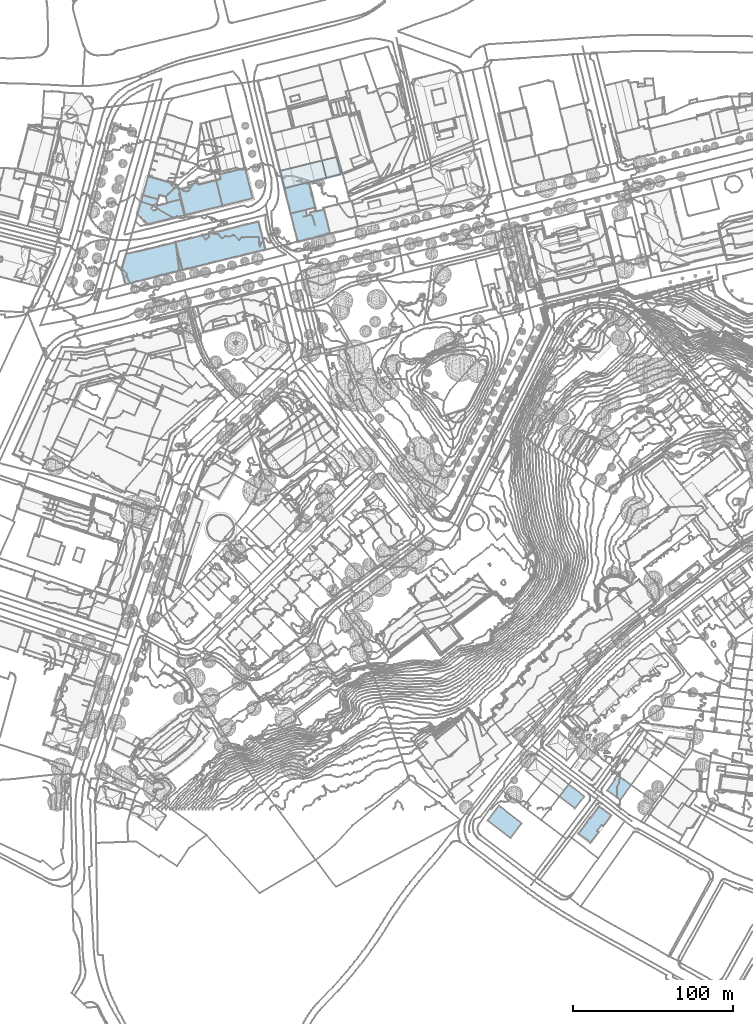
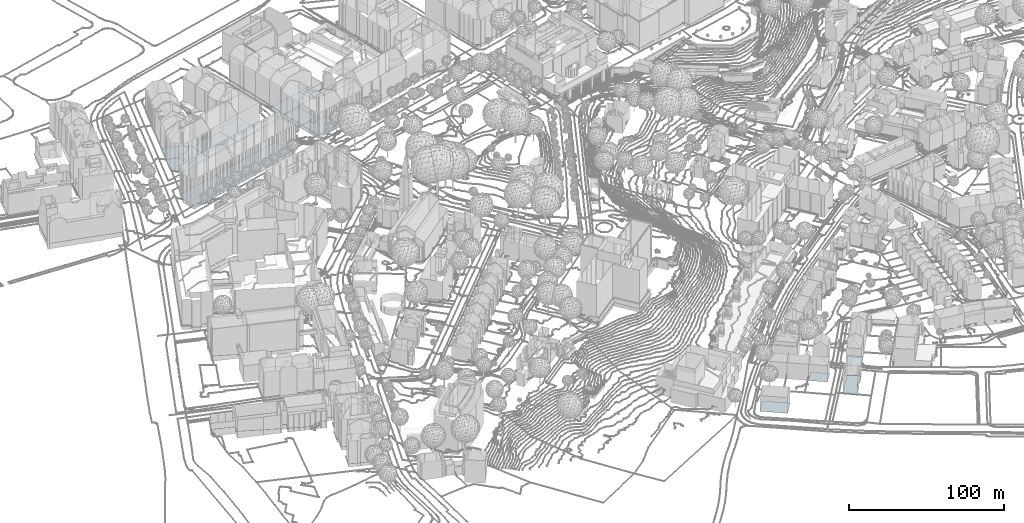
# Not in any storey, part 5 of 494: 13 footings.
"""IFC2X3 model written with IfcOpenShell, lengths in metres."""

from ifc_helpers import new_model, si_unit, frame, origin_with_axes, place, context, subcontext, project, faceted_brep, element, save


model = new_model("IFC2X3")

# Units and contexts
model_context = context("Model", 3, precision=1e-05, world=origin_with_axes())
body_context = subcontext(model_context, "Body", "Model", "MODEL_VIEW")
ifc_project = project(units=[si_unit("AREAUNIT", "SQUARE_METRE"), si_unit("LENGTHUNIT", "METRE")], contexts=[model_context])

# Footings
footing_1_placement = place(None, frame((351.9437320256, 10.5164160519, 499.6315), z_axis=(0.0, 0.0, 1.0), x_axis=(1.0, 0.0, 0.0)))
element("IfcFooting", 1, at=footing_1_placement, Name="Floor 0", PredefinedType="STRIP_FOOTING", context=body_context, shape_type="Brep", body=[
    faceted_brep([(6.9640000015, 9.188500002, 0.0), (10.7760000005, 6.4600000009, 0.0), (5.0899999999, 7.0692999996, 0.0), (4.9010000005, 7.5439999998, 0.0), (6.3780000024, 9.6064999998, 0.0), (6.444000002, 9.5606000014, 0.0), (14.9299999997, 3.4853999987, 0.0), (8.1790000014, -5.8896000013, 0.0), (0.0, 0.0, 0.0), (4.7410000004, 7.3213, 0.0)], [[[0, 1, 2]], [[3, 4, 5]], [[3, 5, 0]], [[6, 7, 1]], [[8, 2, 7]], [[2, 9, 3]], [[3, 0, 2]], [[2, 1, 7]]]),
])
footing_2_placement = place(None, frame((277.0167320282, -8.246283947, 501.3544), z_axis=(0.0, 0.0, 1.0), x_axis=(1.0, 0.0, 0.0)))
element("IfcFooting", 2, at=footing_2_placement, Name="Floor 0", PredefinedType="STRIP_FOOTING", context=body_context, shape_type="Brep", body=[
    faceted_brep([(7.1789999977, 9.2978999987, 0.0), (21.432, -1.7080000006, 0.0), (0.0, 0.0, 0.0), (14.3549999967, -11.0839999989, 0.0)], [[[0, 1, 2]], [[3, 2, 1]]]),
])
footing_3_placement = place(None, frame((334.0767320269, -16.4571839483, 500.2114), z_axis=(0.0, 0.0, 1.0), x_axis=(1.0, 0.0, 0.0)))
element("IfcFooting", 3, at=footing_3_placement, Name="Floor 0", PredefinedType="STRIP_FOOTING", context=body_context, shape_type="Brep", body=[
    faceted_brep([(12.4439999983, 1.0428999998, 0.0), (7.3869999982, -5.6142999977, 0.0), (0.0, 0.0, 0.0), (11.4890000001, 1.7675999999, 0.0), (5.4149999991, 7.1259000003, 0.0), (14.2479999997, 5.3993999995, 0.0), (7.4239999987, 9.7705000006, 0.0), (5.175999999, 7.307599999, 0.0), (15.2030000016, 4.6728000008, 0.0), (12.7949999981, 16.8388000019, 0.0), (20.2369999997, 11.2978000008, 0.0), (12.8440000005, 16.9043000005, 0.0), (7.1849999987, 9.9530999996, 0.0)], [[[0, 1, 2]], [[3, 4, 5]], [[0, 2, 3]], [[4, 6, 5]], [[4, 3, 2]], [[4, 7, 6]], [[8, 9, 10]], [[5, 9, 8]], [[5, 6, 9]], [[11, 10, 9]], [[7, 12, 6]]]),
])
footing_4_placement = place(None, frame((322.0067320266, 6.8035160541, 500.5714), z_axis=(0.0, 0.0, 1.0), x_axis=(1.0, 0.0, 0.0)))
element("IfcFooting", 4, at=footing_4_placement, Name="Floor 0", PredefinedType="STRIP_FOOTING", context=body_context, shape_type="Brep", body=[
    faceted_brep([(9.7160000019, -7.5137000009, 0.0), (2.9200000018, 3.811499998, 0.0), (15.6110000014, 0.1103999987, 0.0), (5.8610000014, 7.6503999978, 0.0), (0.0, 0.0, 0.0)], [[[0, 1, 2]], [[3, 2, 1]], [[1, 0, 4]]]),
])
footing_5_placement = place(None, frame((81.7547320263, 354.0350160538, 535.8227), z_axis=(0.0, 0.0, 1.0), x_axis=(1.0, 0.0, 0.0)))
element("IfcFooting", 5, at=footing_5_placement, Name="Floor 0", PredefinedType="STRIP_FOOTING", context=body_context, shape_type="Brep", body=[
    faceted_brep([(4.2390000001, -17.6513999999, 0.0), (3.9180000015, -17.7314999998, 0.0), (3.8969999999, -17.6446000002, 0.0), (4.4299999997, -17.6045000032, 0.0), (3.4160000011, -17.7237000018, 0.0), (5.2609999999, -17.3057000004, 0.0), (5.2769999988, -17.3946000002, 0.0), (1.4919999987, -11.2305000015, 0.0), (7.2520000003, -16.8125, 0.0), (3.4310000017, -17.7675999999, 0.0), (7.2829999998, -16.8965000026, 0.0), (8.2120000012, -16.6661000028, 0.0), (8.3420000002, -16.5411000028, 0.0), (8.3630000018, -16.6289000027, 0.0), (8.7919999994, -16.4307000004, 0.0), (10.3099999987, -16.0567000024, 0.0), (11.4090000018, -15.7901000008, 0.0), (11.4270000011, -15.8692000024, 0.0), (16.5639999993, -14.5245000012, 0.0), (14.5729999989, -15.0157000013, 0.0), (10.3359999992, -16.1407000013, 0.0), (14.5879999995, -15.0860000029, 0.0), (13.561999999, -15.2696000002, 0.0), (17.6959999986, -14.3155000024, 0.0), (16.5800000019, -14.5918000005, 0.0), (17.6810000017, -14.2383000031, 0.0), (13.5789999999, -15.3360000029, 0.0), (19.6710000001, -13.7471000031, 0.0), (21.0590000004, -13.4825000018, 0.0), (19.6909999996, -13.8213, 0.0), (21.5130000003, -13.2530000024, 0.0), (21.0470000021, -13.4239000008, 0.0), (21.5269999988, -13.3057000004, 0.0), (23.5159999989, -12.7637000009, 0.0), (24.6559999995, -12.4785000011, 0.0), (24.6680000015, -12.5263999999, 0.0), (23.5280000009, -12.8057000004, 0.0), (31.2730000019, -10.9502000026, 0.0), (26.694000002, -12.0840000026, 0.0), (26.6669999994, -11.9932000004, 0.0), (31.2470000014, -10.8467000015, 0.0), (1.4459999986, -10.8868000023, 0.0), (33.2459999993, -10.3409000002, 0.0), (34.4510000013, -10.0811000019, 0.0), (33.2580000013, -10.3731000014, 0.0), (34.4450000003, -10.0459000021, 0.0), (36.3969999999, -9.567400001, 0.0), (36.8330000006, -9.5020000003, 0.0), (36.4070000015, -9.6084000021, 0.0), (38.3379999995, -9.327200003, 0.0), (38.3610000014, -9.4200000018, 0.0), (36.9050000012, -9.7803000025, 0.0), (40.3770000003, -8.8203999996, 0.0), (42.1449999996, -8.2802000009, 0.0), (41.8090000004, -8.563500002, 0.0), (40.4010000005, -8.9151000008, 0.0), (41.7730000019, -8.4131000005, 0.0), (42.1550000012, -8.3194000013, 0.0), (44.1610000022, -7.8145000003, 0.0), (44.1460000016, -7.7832000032, 0.0), (45.6469999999, -7.4502000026, 0.0), (55.3029999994, -0.6494000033, 0.0), (45.6330000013, -7.4034000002, 0.0), (47.5450000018, -6.9805000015, 0.0), (47.5320000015, -6.942400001, 0.0), (49.0370000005, -6.6152999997, 0.0), (49.0250000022, -6.5703000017, 0.0), (51.0709999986, -6.1055000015, 0.0), (51.0549999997, -6.0576000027, 0.0), (51.4629999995, -6.004900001, 0.0), (52.9180000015, -5.8379000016, 0.0), (51.5159999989, -6.1748000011, 0.0), (52.8949999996, -5.7276000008, 0.0), (55.8110000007, -2.7168000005, 0.0), (2.3880000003, -17.9776000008, 0.0), (0.9459999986, -7.1202000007, 0.0), (0.0, 0.0, 0.0), (0.5269999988, 0.047799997, 0.0), (4.1270000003, 0.9266999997, 0.0), (0.5080000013, 0.1268999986, 0.0), (0.0329999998, 0.0088, 0.0), (6.0910000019, 1.4051999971, 0.0), (7.512000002, 1.7469999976, 0.0), (6.0549999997, 1.5516999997, 0.0), (7.4790000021, 1.9012999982, 0.0), (8.8509999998, 2.0829999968, 0.0), (10.2300000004, 2.422799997, 0.0), (10.194000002, 2.5682999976, 0.0), (8.8249999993, 2.2313999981, 0.0), (16.7820000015, 3.8944999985, 0.0), (15.7829999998, 3.8173999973, 0.0), (54.5969999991, 2.4491999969, 0.0), (16.7259999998, 4.1278999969, 0.0), (15.7639999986, 3.8954999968, 0.0), (22.6209999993, 5.4979999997, 0.0), (24.0720000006, 5.7088999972, 0.0), (22.6570000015, 5.3514999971, 0.0), (24.0399999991, 5.8486000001, 0.0), (53.8220000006, 5.5625, 0.0), (26.7860000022, 6.3729999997, 0.0), (25.4079999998, 6.0341999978, 0.0), (25.379999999, 6.1805999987, 0.0), (26.75, 6.5185000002, 0.0), (53.4220000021, 6.5898000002, 0.0), (32.5980000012, 8.066399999, 0.0), (33.5780000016, 8.2137999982, 0.0), (32.6550000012, 7.8339999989, 0.0), (33.557, 8.3006999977, 0.0), (39.8090000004, 9.748999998, 0.0), (52.8770000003, 8.4842999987, 0.0), (56.2300000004, -4.2334000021, 0.0), (54.9420000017, -5.2276000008, 0.0), (54.9670000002, -5.327200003, 0.0), (56.4129999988, -4.9825000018, 0.0), (53.9100000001, 5.5887999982, 0.0), (54.8599999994, 1.369099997, 0.0), (53.6570000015, 6.6454999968, 0.0), (54.949000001, 1.3905999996, 0.0), (54.6849999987, 2.4755999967, 0.0), (55.8570000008, -2.7090000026, 0.0), (56.307, -4.5469000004, 0.0), (55.3489999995, -0.6338, 0.0), (39.7730000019, 9.8944999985, 0.0), (41.6110000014, 10.177699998, 0.0), (41.5729999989, 10.3398000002, 0.0), (52.3440000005, 10.6747999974, 0.0), (42.9160000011, 10.672799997, 0.0), (44.7300000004, 10.9667999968, 0.0), (42.9459999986, 10.5292999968, 0.0), (44.694000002, 11.1122999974, 0.0), (52.9479999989, 8.5067999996, 0.0), (50.9210000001, 12.5975999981, 0.0), (51.8770000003, 12.8299999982, 0.0), (50.9420000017, 12.5097000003, 0.0), (52.4050000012, 10.6991999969, 0.0)], [[[0, 1, 2]], [[3, 0, 2]], [[4, 5, 2]], [[5, 6, 3]], [[3, 2, 5]], [[7, 8, 5]], [[9, 4, 2]], [[7, 5, 4]], [[10, 8, 11]], [[12, 11, 8]], [[13, 11, 12]], [[12, 7, 14]], [[8, 7, 12]], [[7, 15, 14]], [[16, 17, 15]], [[7, 18, 19]], [[17, 20, 15]], [[19, 21, 22]], [[19, 22, 7]], [[18, 23, 24]], [[18, 7, 25]], [[21, 26, 22]], [[16, 7, 22]], [[23, 18, 25]], [[27, 28, 29]], [[7, 30, 27]], [[28, 27, 31]], [[32, 31, 30]], [[33, 7, 34]], [[27, 30, 31]], [[27, 25, 7]], [[16, 15, 7]], [[33, 30, 7]], [[35, 36, 33]], [[33, 34, 35]], [[37, 38, 39]], [[39, 40, 37]], [[40, 39, 7]], [[41, 42, 40]], [[7, 39, 34]], [[43, 44, 42]], [[42, 45, 43]], [[46, 47, 48]], [[47, 49, 50]], [[51, 47, 50]], [[47, 52, 49]], [[53, 47, 46]], [[41, 46, 45]], [[41, 45, 42]], [[52, 54, 55]], [[54, 52, 56]], [[53, 56, 52]], [[57, 56, 53]], [[58, 59, 60]], [[59, 53, 61]], [[61, 62, 59]], [[47, 53, 52]], [[60, 59, 62]], [[63, 64, 65]], [[66, 65, 64]], [[67, 68, 69]], [[69, 70, 71]], [[69, 72, 70]], [[64, 73, 66]], [[64, 62, 73]], [[61, 53, 46]], [[74, 7, 4]], [[46, 41, 75]], [[61, 46, 75]], [[75, 76, 77]], [[78, 75, 77]], [[79, 77, 80]], [[78, 81, 75]], [[76, 80, 77]], [[82, 81, 83]], [[83, 84, 82]], [[75, 85, 86]], [[75, 82, 85]], [[87, 86, 88]], [[89, 86, 90]], [[75, 86, 89]], [[86, 85, 88]], [[75, 81, 82]], [[89, 91, 75]], [[92, 89, 93]], [[90, 93, 89]], [[94, 95, 96]], [[95, 94, 97]], [[96, 95, 98]], [[98, 89, 96]], [[99, 100, 101]], [[101, 102, 99]], [[100, 99, 103]], [[100, 98, 95]], [[104, 105, 106]], [[105, 104, 107]], [[108, 106, 105]], [[103, 99, 106]], [[109, 106, 108]], [[72, 69, 68]], [[72, 110, 111]], [[112, 111, 113]], [[72, 68, 110]], [[103, 114, 98]], [[91, 89, 98]], [[75, 91, 115]], [[116, 114, 103]], [[100, 103, 98]], [[61, 75, 115]], [[117, 91, 118]], [[73, 119, 110]], [[120, 111, 110]], [[111, 120, 113]], [[73, 110, 68]], [[115, 91, 117]], [[61, 115, 121]], [[61, 73, 62]], [[66, 73, 68]], [[122, 123, 108]], [[123, 122, 124]], [[123, 125, 108]], [[126, 127, 128]], [[127, 126, 129]], [[128, 127, 125]], [[128, 125, 123]], [[108, 125, 109]], [[130, 103, 109]], [[131, 132, 133]], [[132, 134, 133]], [[125, 127, 134]], [[127, 133, 134]], [[106, 109, 103]], [[40, 7, 41]]]),
])
footing_6_placement = place(None, frame((48.0647320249, 337.0857160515, 535.8227), z_axis=(0.0, 0.0, 1.0), x_axis=(1.0, 0.0, 0.0)))
element("IfcFooting", 6, at=footing_6_placement, Name="Floor 0", PredefinedType="STRIP_FOOTING", context=body_context, shape_type="Brep", body=[
    faceted_brep([(33.6900000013, 16.9493000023, 0.0), (33.3000000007, 16.5947999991, 0.0), (33.5500000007, 16.9141000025, 0.0), (33.2390000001, 16.8379000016, 0.0), (27.4270000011, 15.1280000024, 0.0), (30.2790000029, 15.8399000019, 0.0), (34.6359999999, 9.8291000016, 0.0), (26.8230000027, 15.1308999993, 0.0), (27.3900000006, 15.2734999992, 0.0), (26.8520000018, 14.9678000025, 0.0), (23.2900000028, 14.0888999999, 0.0), (23.2530000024, 14.2344000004, 0.0), (25.6000000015, 14.6534000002, 0.0), (25.5670000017, 14.8164000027, 0.0), (17.4160000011, 12.6220999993, 0.0), (35.1359999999, 6.0625, 0.0), (24.2039999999, -3.9422999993, 0.0), (35.2910000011, -1.2215999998, 0.0), (35.182, 5.7188000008, 0.0), (36.0780000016, -1.0282999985, 0.0), (25.3740000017, -3.6669999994, 0.0), (35.1000000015, -1.2685000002, 0.0), (14.1790000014, 11.9043000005, 0.0), (22.2210000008, -4.4442999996, 0.0), (12.4210000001, 11.4620000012, 0.0), (16.3880000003, 12.6182000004, 0.0), (17.3590000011, 12.8544999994, 0.0), (16.4060000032, 12.4776000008, 0.0), (15.6550000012, 12.2657000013, 0.0), (15.6510000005, 12.2969000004, 0.0), (33.9360000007, -1.5487999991, 0.0), (12.4170000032, 11.5, 0.0), (14.1730000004, 11.947300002, 0.0), (10.9700000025, 11.0918000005, 0.0), (10.2130000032, 10.9600000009, 0.0), (10.9600000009, 11.1495000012, 0.0), (10.1610000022, 11.1601999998, 0.0), (1.5920000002, 5.3194000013, 0.0), (5.2630000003, 9.8594000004, 0.0), (5.2420000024, 9.9629000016, 0.0), (2.1770000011, 7.3858000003, 0.0), (3.7320000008, 9.4922000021, 0.0), (2.6090000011, 9.3243000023, 0.0), (3.7140000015, 9.5909000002, 0.0), (2.4520000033, 8.7618000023, 0.0), (1.194000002, 3.9180000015, 0.0), (18.3900000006, -5.6268999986, 0.0), (2.0800000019, 7.4229000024, 0.0), (1.1180000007, 3.9453999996, 0.0), (16.5530000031, -6.0126999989, 0.0), (0.6160000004, 1.8780000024, 0.0), (1.5150000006, 5.3438000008, 0.0), (0.1660000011, 0.5733000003, 0.0), (0.5470000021, 1.8965000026, 0.0), (0.7039999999, -2.807599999, 0.0), (0.0, 0.0, 0.0), (0.8590000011, -3.4648000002, 0.0), (0.5670000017, -2.8436999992, 0.0), (14.5450000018, -6.5126999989, 0.0), (0.7400000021, -3.4881999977, 0.0), (35.1140000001, -1.3348999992, 0.0), (33.950000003, -1.6162, 0.0), (31.9580000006, -2.0321999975, 0.0), (30.8550000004, -2.3662, 0.0), (31.5450000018, -2.3691000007, 0.0), (30.8890000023, -2.5340999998, 0.0), (31.5140000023, -2.2284999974, 0.0), (31.9720000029, -2.1092999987, 0.0), (27.3430000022, -3.1717999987, 0.0), (28.4470000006, -2.9608999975, 0.0), (27.8330000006, -3.1180999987, 0.0), (27.8660000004, -3.2752999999, 0.0), (28.4820000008, -3.1209999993, 0.0), (27.3560000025, -3.2284999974, 0.0), (25.3859999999, -3.7362999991, 0.0), (24.2240000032, -4.0262999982, 0.0), (21.8280000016, -4.6004999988, 0.0), (22.2300000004, -4.4941000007, 0.0), (20.4300000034, -5.1259000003, 0.0), (21.9140000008, -4.9384000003, 0.0), (20.4680000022, -5.2899999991, 0.0), (18.4250000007, -5.7861000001, 0.0), (16.9790000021, -5.9715999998, 0.0), (17.018000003, -6.1464000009, 0.0), (16.5670000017, -6.0839000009, 0.0), (13.9790000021, -6.7333999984, 0.0), (14.0080000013, -6.8768999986, 0.0), (13.4180000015, -7.0262999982, 0.0), (13.4020000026, -6.9549999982, 0.0), (14.5620000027, -6.5918000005, 0.0), (10.3260000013, -7.6307999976, 0.0), (1.7150000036, -6.8983999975, 0.0), (1.4330000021, -6.2909999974, 0.0), (1.5610000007, -6.2547999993, 0.0), (7.6620000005, -8.2324000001, 0.0), (1.5920000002, -6.9247999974, 0.0), (10.9650000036, -7.566399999, 0.0), (9.7030000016, -7.7342999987, 0.0), (10.9740000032, -7.6483999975, 0.0), (9.7170000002, -7.7949000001, 0.0), (10.3650000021, -7.807599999, 0.0), (7.2960000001, -8.3856999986, 0.0), (7.6760000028, -8.2928999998, 0.0), (5.8650000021, -8.7577999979, 0.0), (3.8480000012, -9.2597000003, 0.0), (7.3340000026, -8.5506999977, 0.0), (2.4410000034, -9.753899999, 0.0), (3.876000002, -9.3964000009, 0.0), (5.8980000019, -8.9081999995, 0.0)], [[[0, 1, 2]], [[2, 1, 3]], [[4, 5, 6]], [[4, 7, 8]], [[6, 9, 4]], [[6, 1, 0]], [[7, 4, 9]], [[10, 11, 12]], [[12, 6, 10]], [[11, 13, 12]], [[6, 12, 9]], [[1, 6, 5]], [[14, 15, 16]], [[15, 14, 10]], [[17, 18, 19]], [[18, 20, 15]], [[21, 18, 17]], [[22, 23, 24]], [[14, 25, 26]], [[14, 27, 25]], [[27, 28, 29]], [[28, 14, 23]], [[14, 28, 27]], [[23, 22, 28]], [[30, 18, 21]], [[6, 15, 10]], [[31, 32, 22]], [[24, 31, 22]], [[33, 34, 35]], [[36, 34, 37]], [[33, 37, 34]], [[38, 39, 36]], [[36, 40, 38]], [[41, 42, 43]], [[42, 41, 44]], [[41, 40, 44]], [[38, 40, 41]], [[45, 33, 46]], [[47, 44, 40]], [[45, 48, 37]], [[45, 49, 50]], [[33, 45, 37]], [[48, 51, 37]], [[37, 40, 36]], [[50, 52, 53]], [[52, 54, 55]], [[56, 57, 54]], [[52, 58, 54]], [[57, 56, 59]], [[46, 33, 24]], [[58, 52, 50]], [[58, 56, 54]], [[21, 60, 30]], [[30, 60, 61]], [[62, 63, 18]], [[64, 65, 63]], [[63, 66, 64]], [[66, 62, 67]], [[66, 63, 62]], [[68, 18, 69]], [[69, 70, 68]], [[63, 69, 18]], [[71, 70, 72]], [[73, 68, 70]], [[70, 69, 72]], [[20, 18, 68]], [[74, 16, 20]], [[74, 75, 16]], [[15, 20, 16]], [[76, 23, 77]], [[76, 24, 23]], [[78, 76, 79]], [[79, 80, 78]], [[78, 46, 76]], [[81, 82, 46]], [[82, 81, 83]], [[45, 46, 49]], [[76, 46, 24]], [[46, 82, 49]], [[16, 23, 14]], [[49, 82, 84]], [[56, 58, 85]], [[86, 87, 88]], [[88, 85, 86]], [[85, 58, 89]], [[56, 85, 90]], [[91, 92, 93]], [[91, 93, 94]], [[91, 95, 92]], [[96, 90, 88]], [[93, 56, 97]], [[98, 90, 96]], [[97, 56, 90]], [[88, 90, 85]], [[49, 58, 50]], [[90, 99, 97]], [[90, 98, 100]], [[101, 94, 102]], [[94, 101, 91]], [[103, 104, 91]], [[105, 103, 101]], [[104, 106, 91]], [[101, 103, 91]], [[104, 107, 106]], [[108, 103, 105]], [[93, 97, 94]], [[18, 30, 62]]]),
])
footing_7_placement = place(None, frame((153.8417320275, 371.7576160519, 556.9797), z_axis=(0.0, 0.0, 1.0), x_axis=(1.0, 0.0, 0.0)))
element("IfcFooting", 7, at=footing_7_placement, Name="Floor 0", PredefinedType="STRIP_FOOTING", context=body_context, shape_type="Brep", body=[
    faceted_brep([(12.1769999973, 0.7177999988, -19.1582), (9.4499999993, 2.3037, -19.1582), (15.2799999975, 2.753899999, -19.1582), (9.4459999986, 2.3213, -19.1582), (15.4069999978, 3.8672000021, -19.1582), (15.5659999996, 1.6026000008, -19.1582), (12.5519999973, -0.7265000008, -19.1582), (10.3819999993, -1.2910000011, -19.1582), (15.5419999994, 3.3594000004, -19.1582), (15.5040000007, 3.3447000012, -19.1582), (15.4349999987, 3.7608000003, -19.1582), (15.6259999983, 2.8643000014, -19.1582), (5.2039999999, -17.3515000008, -19.7052), (4.6579999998, -17.5390000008, -19.7052), (4.186999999, -16.7285000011, -19.7052), (5.2159999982, -17.4013999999, -19.7052), (12.430999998, -15.7313999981, -19.7052), (11.6699999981, -15.9179999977, -19.7052), (11.629999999, -15.7588, -19.7052), (13.4289999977, -15.4891999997, -19.7052), (13.9019999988, -15.3125, -19.7052), (13.8819999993, -15.3779000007, -19.7052), (9.3399999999, -16.2617000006, -19.7052), (9.3559999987, -16.3222000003, -19.7052), (3.4010000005, -13.1611000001, -19.7052), (10.693, -15.9287, -19.7052), (3.7430000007, -14.5077999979, -19.7052), (10.7119999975, -15.9862999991, -19.7052), (10.9639999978, -15.9237999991, -19.7052), (10.381000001, -1.2910000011, -19.7052), (2.7879999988, -11.0282999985, -19.7052), (15.6919999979, -14.8691000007, -19.7052), (12.5519999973, -0.7265000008, -19.7052), (17.9230000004, -14.2128999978, -19.7052), (14.9120000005, -15.061499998, -19.7052), (16.873999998, -14.6356999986, -19.7052), (15.743999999, -14.9169999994, -19.7052), (17.9609999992, -14.3662, -19.7052), (17.7139999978, -14.4266999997, -19.7052), (18.9069999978, -13.9686999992, -19.7052), (18.8829999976, -13.8847000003, -19.7052), (20.1400000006, -13.5771000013, -19.7052), (22.0779999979, -13.1024999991, -19.7052), (20.1659999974, -13.6572000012, -19.7052), (22.0969999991, -13.1766999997, -19.7052), (23.436999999, -12.7606999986, -19.7052), (24.1449999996, -12.6699000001, -19.7052), (23.4609999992, -12.8387999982, -19.7052), (24.3330000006, -12.6229999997, -19.7052), (24.7939999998, -12.6220999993, -19.7052), (24.3640000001, -12.7333999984, -19.7052), (23.1359999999, -6.0790999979, -19.7052), (4.3519999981, -17.615199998, -19.7052), (2.5119999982, -10.1688999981, -19.7052), (2.574000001, -10.1543000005, -19.7052), (3.318, -13.1854999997, -19.7052), (3.6499999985, -14.5399999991, -19.7052), (2.7280000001, -11.0429999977, -19.7052), (0.0979999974, -0.4052999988, -19.7052), (0.0, 0.0, -19.7052), (0.1779999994, -0.3896000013, -19.7052), (3.5769999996, 0.8720999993, -19.7052), (6.5949999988, 1.5811000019, -19.7052), (8.9199999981, 2.1757999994, -19.7052), (23.0189999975, -5.5918000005, -19.7052), (22.2689999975, -2.6387000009, -19.7052), (16.0089999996, 1.3584000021, -19.7052), (21.5390000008, 0.1933999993, -19.7052), (15.5659999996, 1.6015999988, -19.7052), (12.1769999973, 0.7177999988, -19.7052), (15.9199999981, 1.6953000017, -19.7052), (20.5639999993, 2.8936000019, -19.7052), (20.8440000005, 2.9658000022, -19.7052), (20.6499999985, 2.7851999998, -19.7052), (20.5949999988, 2.7637000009, -19.7052), (20.7109999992, 2.5362000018, -19.7052), (9.4499999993, 2.3037, -19.7052), (4.1380000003, -16.7412, -19.7052)], [[[0, 1, 2]], [[1, 3, 4]], [[2, 5, 0]], [[0, 6, 7]], [[7, 1, 0]], [[8, 9, 10]], [[2, 1, 10]], [[2, 9, 11]], [[10, 9, 2]], [[1, 4, 10]], [[12, 13, 14]], [[15, 13, 12]], [[16, 17, 18]], [[16, 18, 19]], [[20, 21, 19]], [[12, 22, 23]], [[22, 24, 25]], [[26, 22, 12]], [[27, 25, 28]], [[18, 28, 25]], [[29, 20, 18]], [[18, 25, 30]], [[19, 18, 20]], [[31, 32, 33]], [[29, 34, 20]], [[31, 35, 36]], [[33, 37, 38]], [[38, 35, 33]], [[33, 35, 31]], [[39, 33, 40]], [[41, 42, 43]], [[42, 44, 43]], [[45, 46, 47]], [[46, 45, 48]], [[49, 50, 48]], [[48, 51, 49]], [[34, 32, 31]], [[13, 52, 14]], [[12, 14, 26]], [[30, 53, 54]], [[30, 24, 55]], [[26, 14, 56]], [[18, 54, 29]], [[30, 54, 18]], [[30, 25, 24]], [[57, 53, 30]], [[24, 22, 26]], [[58, 59, 60]], [[60, 61, 54]], [[61, 29, 54]], [[61, 62, 29]], [[59, 61, 60]], [[63, 29, 62]], [[41, 40, 51]], [[33, 32, 64]], [[32, 34, 29]], [[64, 51, 33]], [[51, 48, 45]], [[51, 45, 42]], [[40, 33, 51]], [[65, 64, 32]], [[66, 67, 65]], [[32, 66, 65]], [[42, 41, 51]], [[68, 66, 32]], [[32, 69, 68]], [[70, 66, 68]], [[71, 72, 73]], [[73, 74, 71]], [[72, 75, 73]], [[72, 67, 75]], [[75, 67, 66]], [[63, 76, 29]], [[52, 77, 14]]]),
])
footing_8_placement = place(None, frame((57.9967320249, 371.6443160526, 536.9447), z_axis=(0.0, 0.0, 1.0), x_axis=(1.0, 0.0, 0.0)))
element("IfcFooting", 8, at=footing_8_placement, Name="Floor 0", PredefinedType="STRIP_FOOTING", context=body_context, shape_type="Brep", body=[
    faceted_brep([(10.3950000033, 9.6816999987, 0.0), (0.1380000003, -0.2675000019, 0.0), (0.0100000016, 0.1689999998, 0.0), (2.0930000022, 7.5390999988, 0.0), (2.2030000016, 7.6963, 0.0), (2.1290000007, 7.6152999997, 0.0), (12.007000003, 6.1856000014, -0.0001), (2.2930000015, -2.5439000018, -0.0001), (2.3590000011, -2.4803999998, -0.0001), (0.0, 0.0, 0.0), (0.0540000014, -0.1523000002, 0.0), (2.9260000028, 10.4776000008, 0.0), (2.6590000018, 9.3027999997, 0.0), (2.643000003, 9.4814999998, 0.0), (3.1610000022, 11.5390999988, 0.0), (3.1570000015, 11.2930000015, 0.0), (3.1020000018, 11.3095999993, 0.0), (12.2110000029, 5.9814999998, -0.0001), (12.3510000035, 5.2305000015, -0.0001), (12.9810000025, 5.2120000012, -0.0001), (12.8380000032, 5.3555000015, -0.0001), (3.9330000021, -4.1240000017, -0.0001), (2.637000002, 9.3847999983, 0.0), (3.8720000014, -4.191399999, -0.0001), (6.0970000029, -6.4541000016, -0.0001), (6.5460000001, -6.6103000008, -0.0001), (6.2920000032, -6.5879000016, -0.0001), (6.188000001, -6.5293000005, -0.0001), (6.4150000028, -6.6141999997, -0.0001), (6.449000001, -6.6229999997, -0.0001), (10.8060000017, -5.4765000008, -0.0001), (10.6600000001, -5.5742000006, -0.0001), (10.7360000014, -5.5419999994, -0.0001), (13.6530000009, -4.7685000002, -0.0001), (17.5560000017, 6.3526000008, -0.0001), (13.8270000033, -4.7928999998, -0.0001), (13.7200000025, -4.7928999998, -0.0001), (17.7670000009, -3.8291000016, -0.0001), (18.689000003, 6.6347999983, -0.0001), (13.8440000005, 5.4277999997, -0.0001), (17.7860000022, -3.9061999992, -0.0001), (18.700000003, -3.6004999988, -0.0001), (18.7190000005, -3.6787, -0.0001), (27.2670000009, 7.2217000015, -0.0001), (21.6490000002, -2.6766999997, -0.0001), (21.6910000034, -2.8680999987, -0.0001), (27.4590000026, 6.4677999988, -0.0001), (12.7980000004, 8.9912, 0.0), (12.819000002, 9.0615999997, 0.0), (16.1700000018, 6.0069000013, -0.0001), (18.6770000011, 6.6827000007, -0.0001), (25.9670000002, 12.4228999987, -0.0002), (19.9760000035, 12.9941999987, -0.0001), (17.6710000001, 10.6992999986, -0.0001), (17.6480000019, 10.7050999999, -0.0001), (17.9580000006, 9.5546999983, -0.0001), (24.1640000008, 17.1083999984, 0.0), (24.2860000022, 16.9844000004, 0.0), (23.007000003, 15.9726999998, 0.0), (24.9530000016, 16.2842000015, -0.0001), (26.1160000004, 14.4688000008, -0.0001), (26.5090000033, 12.8779999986, -0.0001), (25.9170000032, 15.2745000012, -0.0001), (25.6150000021, 15.5909000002, -0.0001), (26.8340000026, 8.9472999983, -0.0001), (22.9730000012, -2.5555999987, -0.0001), (24.1520000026, -2.0791000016, -0.0001), (24.1920000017, -2.2578000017, -0.0001), (22.9230000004, -2.371100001, -0.0001), (25.4200000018, -1.7694999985, -0.0001), (26.0200000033, -1.8095000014, -0.0001), (25.4640000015, -1.9453000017, -0.0001), (26.0430000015, -1.9013000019, -0.0001), (26.876000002, -1.6953000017, -0.0001), (27.1510000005, -1.5243999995, -0.0001), (27.1150000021, -1.6435000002, -0.0001), (27.068, -1.6904000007, -0.0001), (26.8880000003, -1.7430999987, -0.0001), (28.006000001, -1.3134000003, -0.0001), (28.8460000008, -1.1064000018, -0.0001), (29.193, -1.1240000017, -0.0001), (29.0520000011, -1.2138000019, -0.0001), (28.9420000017, -1.2010999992, -0.0001), (29.2050000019, -1.1737999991, -0.0001), (29.3720000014, -1.0800000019, -0.0001)], [[[0, 1, 2]], [[3, 0, 2]], [[4, 3, 5]], [[6, 1, 0]], [[7, 1, 8]], [[9, 2, 10]], [[1, 10, 2]], [[1, 6, 8]], [[3, 4, 0]], [[11, 12, 13]], [[4, 12, 0]], [[14, 15, 16]], [[11, 15, 0]], [[0, 12, 11]], [[6, 17, 18]], [[8, 6, 18]], [[19, 18, 20]], [[18, 21, 8]], [[14, 0, 15]], [[13, 12, 22]], [[21, 18, 19]], [[23, 21, 24]], [[25, 26, 27]], [[25, 27, 24]], [[25, 24, 19]], [[28, 25, 29]], [[26, 25, 28]], [[30, 31, 25]], [[21, 19, 24]], [[31, 30, 32]], [[33, 30, 34]], [[35, 36, 33]], [[37, 35, 38]], [[38, 35, 33]], [[25, 39, 30]], [[40, 41, 42]], [[40, 37, 41]], [[41, 37, 43]], [[41, 44, 45]], [[46, 44, 41]], [[25, 19, 39]], [[47, 6, 0]], [[47, 0, 48]], [[38, 33, 34]], [[30, 49, 34]], [[38, 50, 51]], [[43, 37, 38]], [[52, 53, 54]], [[53, 52, 55]], [[56, 57, 58]], [[58, 59, 52]], [[59, 58, 57]], [[60, 51, 55]], [[52, 60, 55]], [[60, 61, 51]], [[51, 50, 55]], [[62, 60, 63]], [[52, 63, 60]], [[59, 63, 52]], [[51, 64, 38]], [[65, 66, 67]], [[65, 68, 66]], [[69, 66, 46]], [[69, 70, 71]], [[68, 46, 66]], [[72, 70, 73]], [[74, 75, 76]], [[73, 70, 74]], [[74, 76, 77]], [[77, 73, 74]], [[70, 69, 74]], [[46, 78, 74]], [[69, 46, 74]], [[46, 79, 78]], [[44, 46, 68]], [[46, 41, 43]], [[43, 38, 64]], [[80, 81, 82]], [[82, 79, 80]], [[83, 81, 80]], [[80, 79, 84]], [[46, 84, 79]], [[39, 49, 30]]]),
])
footing_9_placement = place(None, frame((83.9137320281, 386.9188160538, 537.2696), z_axis=(0.0, 0.0, 1.0), x_axis=(1.0, 0.0, 0.0)))
element("IfcFooting", 9, at=footing_9_placement, Name="Floor 0", PredefinedType="STRIP_FOOTING", context=body_context, shape_type="Brep", body=[
    faceted_brep([(11.8299999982, 4.1747999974, 0.7441), (5.9689999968, 2.7069999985, 0.7439), (11.4419999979, 5.7196999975, 0.7441), (5.5869999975, 4.2850999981, 0.7441), (24.5249999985, 0.8495999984, 0.0), (19.754999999, 4.7635999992, 0.0001), (24.3809999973, 1.431599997, 0.0), (25.106999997, -1.5069000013, 0.0), (25.2449999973, -2.0665000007, 0.0), (25.930999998, -4.8438000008, 0.0), (27.2709999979, -10.2675999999, 0.0), (23.3349999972, 5.6668999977, 0.0001), (5.9689999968, 2.7069999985, 0.0), (11.8289999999, 4.1747999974, 0.0001), (12.1619999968, 2.8486000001, 0.0), (6.2839999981, 1.4051999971, 0.0), (6.4389999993, -15.4170000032, 0.0), (3.4549999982, -16.3545000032, 0.0), (4.0590000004, -16.004900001, 0.0), (4.1049999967, -16.193400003, 0.0), (1.5409999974, -8.8067000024, 0.0), (1.3499999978, -8.0527999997, 0.0), (5.4589999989, 1.2000999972, 0.0), (0.9169999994, -6.327200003, 0.0), (0.049999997, -2.8516000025, 0.0), (0.5920000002, -2.3965000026, 0.0), (1.0169999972, 0.0975999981, 0.0), (0.0, 0.0, 0.0), (0.9709999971, 0.2274999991, 0.0), (0.2199999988, -0.8887000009, 0.0)], [[[0, 1, 2]], [[3, 2, 1]], [[4, 5, 6]], [[5, 4, 7]], [[8, 9, 5]], [[7, 8, 5]], [[10, 5, 9]], [[11, 6, 5]], [[12, 13, 14]], [[12, 14, 15]], [[10, 14, 5]], [[10, 16, 14]], [[17, 18, 19]], [[18, 20, 16]], [[20, 18, 17]], [[20, 21, 22]], [[23, 22, 21]], [[16, 20, 22]], [[23, 24, 25]], [[22, 25, 26]], [[27, 28, 26]], [[16, 22, 15]], [[27, 26, 29]], [[26, 25, 29]], [[25, 22, 23]], [[15, 14, 16]]]),
])
footing_10_placement = place(None, frame((61.1577320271, 383.1834160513, 537.3186), z_axis=(0.0, 0.0, 1.0), x_axis=(1.0, 0.0, 0.0)))
element("IfcFooting", 10, at=footing_10_placement, Name="Floor 0", PredefinedType="STRIP_FOOTING", context=body_context, shape_type="Brep", body=[
    faceted_brep([(0.0439999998, 0.1738000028, 0.0), (0.1710000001, 0.3594000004, 0.0), (0.0, 0.0, 0.0), (0.2359999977, 0.5898000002, 0.0), (0.3020000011, 0.5713, 0.0), (0.1050000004, 0.375, 0.0), (7.1339999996, -1.8319999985, 0.0), (10.4719999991, 0.2432000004, 0.0), (8.0009999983, -2.0537, 0.0), (9.6579999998, -2.4784999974, 0.0), (3.4290000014, 11.7188000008, 0.0002), (13.4659999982, -0.5595999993, 0.0), (16.0659999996, 0.7206999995, 0.0), (11.0500000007, 9.8115000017, 0.0001), (13.2190000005, 9.1807000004, 0.0001), (16.8150000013, 1.4550999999, 0.0), (3.5099999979, 12.001000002, 0.0002), (14.4859999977, -0.8339999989, 0.0), (19.8460000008, 4.433600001, 0.0), (17.8000000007, 6.6201000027, 0.0), (18.0940000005, 7.7627000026, 0.0001), (19.4470000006, 7.1523000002, -0.3739), (21.0029999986, 5.5692999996, -0.3739), (19.8460000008, 4.433600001, -0.3739), (17.8000000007, 6.6201000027, -0.3739), (18.0940000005, 7.7627000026, -0.3738), (19.504999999, 7.3525000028, -0.3739)], [[[0, 1, 2]], [[3, 4, 1]], [[1, 0, 5]], [[1, 6, 2]], [[6, 7, 8]], [[8, 7, 9]], [[7, 6, 4]], [[4, 10, 7]], [[1, 4, 6]], [[11, 7, 12]], [[7, 10, 13]], [[13, 14, 7]], [[15, 7, 14]], [[10, 16, 13]], [[11, 12, 17]], [[7, 15, 12]], [[18, 15, 19]], [[19, 15, 14]], [[20, 19, 14]], [[21, 22, 23]], [[23, 24, 21]], [[25, 26, 21]], [[21, 24, 25]]]),
])
footing_11_placement = place(None, frame((107.2487320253, 392.5857160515, 537.2697), z_axis=(0.0, 0.0, 1.0), x_axis=(1.0, 0.0, 0.0)))
element("IfcFooting", 11, at=footing_11_placement, Name="Floor 0", PredefinedType="STRIP_FOOTING", context=body_context, shape_type="Brep", body=[
    faceted_brep([(19.518000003, 2.125, 0.0), (22.8420000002, -11.2626999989, -0.0001), (2.5960000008, -10.5106999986, -0.0001), (9.9900000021, 5.7012000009, 0.0), (11.9570000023, 6.1914000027, 0.0), (14.7710000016, 6.8916000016, 0.0), (18.3670000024, 6.7569000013, 0.0), (18.126000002, 7.7276000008, 0.0), (17.5320000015, 7.5800999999, 0.0), (1.5100000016, -6.1141999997, -0.0001), (1.1900000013, -4.8172999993, -0.0001), (1.0460000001, -4.2353000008, -0.0001), (2.8280000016, 0.8183999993, 0.0), (1.9100000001, -7.7333999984, -0.0001), (8.8470000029, -14.7206999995, -0.0001), (3.9360000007, -15.9344999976, -0.0001), (2.1040000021, 3.7364000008, 0.0), (4.5420000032, 4.3428000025, 0.0), (7.4600000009, 5.0703999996, 0.0), (2.6449999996, 0.6669999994, 0.0), (0.0, 0.0, 0.0), (2.7360000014, 0.7959000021, 0.0), (2.620000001, 0.7666000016, 0.0)], [[[0, 1, 2]], [[0, 3, 4]], [[0, 5, 6]], [[5, 0, 4]], [[7, 6, 8]], [[8, 6, 5]], [[0, 9, 10]], [[11, 0, 10]], [[12, 0, 11]], [[0, 2, 13]], [[0, 13, 9]], [[14, 15, 2]], [[12, 16, 17]], [[17, 18, 12]], [[3, 12, 18]], [[12, 3, 0]], [[19, 11, 20]], [[21, 19, 22]], [[21, 12, 19]], [[19, 12, 11]], [[14, 2, 1]]]),
])
footing_12_placement = place(None, frame((149.980732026, 387.552516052, 537.2746), z_axis=(0.0, 0.0, 1.0), x_axis=(1.0, 0.0, 0.0)))
element("IfcFooting", 12, at=footing_12_placement, Name="Floor 0", PredefinedType="STRIP_FOOTING", context=body_context, shape_type="Brep", body=[
    faceted_brep([(0.0980000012, -0.186499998, 0.0), (0.0490000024, -0.1992000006, 0.0), (0.0, 0.0, 0.0), (6.3269999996, 1.6015999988, 0.0), (0.5590000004, -2.0419999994, 0.0), (16.7939999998, -3.490199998, -0.0001), (1.8170000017, -7.7978000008, -0.0001), (1.376000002, -5.3310000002, 0.0), (10.438000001, -14.191399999, -0.0001), (2.568, -10.1893999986, -0.0001), (2.4120000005, -10.2274999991, -0.0001), (1.2210000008, -5.3691000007, 0.0), (17.1220000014, -4.753899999, -0.0001), (2.9120000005, -11.5907999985, -0.0001), (7.438000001, -14.9228000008, -0.0001), (3.4019999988, -13.5859000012, -0.0001), (2.8139999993, -11.1933000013, -0.0001), (3.8610000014, -15.7949000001, -0.0001), (3.8320000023, -15.3387999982, -0.0001), (3.754999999, -15.3574000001, -0.0001), (12.7809999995, -13.6191000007, -0.0001), (8.6750000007, 2.2109999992, 0.0), (15.8969999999, 3.8183999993, 0.0001), (15.3410000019, 3.6788000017, 0.0001), (15.9299999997, 4.0293000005, 0.0001), (16.2530000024, -0.0174999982, -0.0001), (15.6750000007, 2.3262000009, -0.0001), (15.6480000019, 2.4345999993, -0.0001), (15.9790000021, 3.8388999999, 0.0001), (16.8310000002, -2.3623000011, -0.0001), (16.9039999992, -2.3623000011, -0.0001), (17.1840000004, -3.4237999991, -0.0001), (17.6590000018, -5.7021000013, -0.0001), (13.307, -13.4736000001, -0.0001), (17.5069999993, -4.6893999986, -0.0001), (17.751000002, -5.6678999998, -0.0001), (19.186999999, -11.6268999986, -0.0001), (19.2679999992, -11.927699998, -0.0001), (19.1440000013, -11.6367000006, -0.0001)], [[[0, 1, 2]], [[2, 3, 0]], [[3, 4, 0]], [[3, 5, 6]], [[6, 7, 3]], [[6, 8, 9]], [[9, 10, 6]], [[6, 11, 7]], [[6, 12, 8]], [[7, 4, 3]], [[13, 14, 15]], [[14, 13, 16]], [[16, 8, 14]], [[14, 17, 18]], [[15, 14, 18]], [[17, 19, 18]], [[8, 16, 9]], [[12, 20, 8]], [[5, 3, 21]], [[22, 23, 24]], [[25, 21, 26]], [[21, 27, 26]], [[24, 28, 22]], [[23, 21, 24]], [[29, 30, 5]], [[30, 31, 5]], [[21, 25, 29]], [[29, 5, 21]], [[12, 32, 33]], [[20, 12, 33]], [[12, 34, 32]], [[35, 32, 34]], [[5, 12, 6]], [[36, 37, 38]], [[37, 33, 38]], [[38, 33, 32]], [[21, 23, 27]]]),
])
footing_13_placement = place(None, frame((147.4227320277, 398.5125160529, 538.0286), z_axis=(0.0, 0.0, 1.0), x_axis=(1.0, 0.0, 0.0)))
element("IfcFooting", 13, at=footing_13_placement, Name="Floor 0", PredefinedType="STRIP_FOOTING", context=body_context, shape_type="Brep", body=[
    faceted_brep([(28.7630000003, -4.4893000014, 0.363), (26.0639999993, 6.4569999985, 0.363), (37.8039999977, -1.878899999, 0.363), (35.0139999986, 8.6728999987, 0.363), (0.0, 0.0, 0.0), (0.7219999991, 0.1796999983, 0.0), (1.0929999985, -4.3925999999, 0.0), (8.8849999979, -9.3584000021, -0.0001), (11.2329999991, -8.7490000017, -0.0001), (2.5519999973, -10.254900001, -0.0001), (2.5579999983, -10.9600000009, -0.0001), (2.5059999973, -10.7402000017, -0.0001), (2.3919999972, -10.2949000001, -0.0001), (6.1919999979, 1.5341999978, 0.0), (18.487999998, -6.9307000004, 0.0), (18.5240000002, 4.5878999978, 0.0), (21.2209999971, -6.3515999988, 0.0), (26.0639999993, 6.4569999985, 0.0), (27.9679999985, -4.6854999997, 0.0), (28.7639999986, -4.4893000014, 0.0)], [[[0, 1, 2]], [[3, 2, 1]], [[4, 5, 6]], [[7, 6, 8]], [[7, 9, 6]], [[7, 10, 11]], [[12, 9, 11]], [[7, 11, 9]], [[5, 13, 6]], [[8, 6, 14]], [[15, 14, 6]], [[15, 16, 14]], [[15, 17, 18]], [[15, 18, 16]], [[19, 18, 17]], [[13, 15, 6]]]),
])

save(model, "model.ifc")
